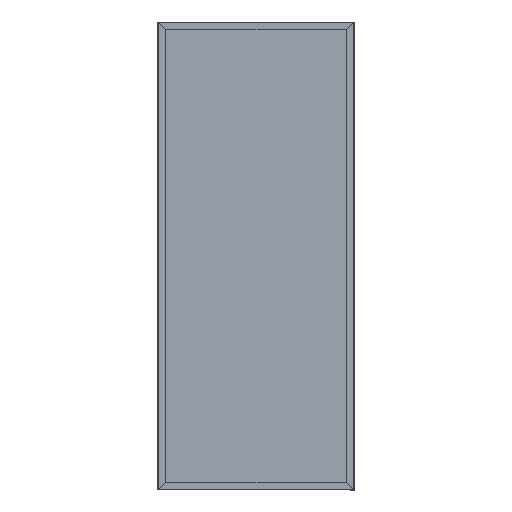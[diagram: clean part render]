
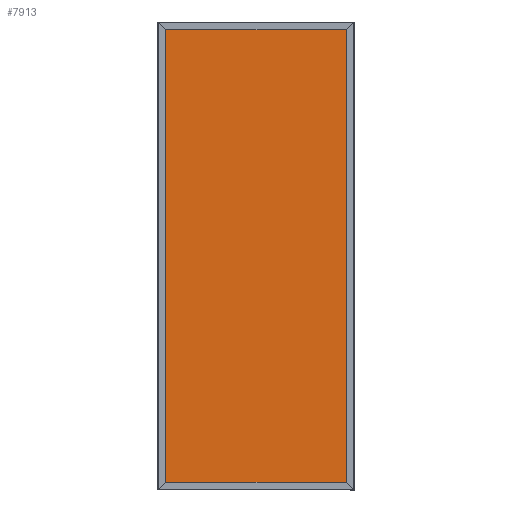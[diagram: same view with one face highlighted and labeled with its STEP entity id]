
A CAD part, top view. The second image highlights one B-rep face of the part: STEP entity #7913.
In plain terms, the highlighted planar face has unit normal (0, 0, 1).
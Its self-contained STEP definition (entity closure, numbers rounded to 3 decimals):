
#494 = EDGE_CURVE ( 'NONE', #20687, #7464, #19026, .T. ) ;
#1671 = DIRECTION ( 'NONE',  ( -1., 0., 0. ) ) ;
#1823 = CARTESIAN_POINT ( 'NONE',  ( 465.07, 0., -13.25 ) ) ;
#3111 = CARTESIAN_POINT ( 'NONE',  ( 465.07, -1162.2, -13.25 ) ) ;
#4229 = CARTESIAN_POINT ( 'NONE',  ( 0., 0., -13.25 ) ) ;
#4364 = DIRECTION ( 'NONE',  ( 0., 1., 0. ) ) ;
#6292 = VECTOR ( 'NONE', #9281, 1000. ) ;
#7331 = LINE ( 'NONE', #15720, #21215 ) ;
#7460 = EDGE_CURVE ( 'NONE', #17281, #10662, #7684, .T. ) ;
#7464 = VERTEX_POINT ( 'NONE', #25021 ) ;
#7684 = LINE ( 'NONE', #23312, #24474 ) ;
#7913 = ADVANCED_FACE ( 'NONE', ( #10485 ), #10757, .F. ) ;
#8093 = ORIENTED_EDGE ( 'NONE', *, *, #494, .T. ) ;
#9070 = EDGE_CURVE ( 'NONE', #7464, #10662, #7331, .T. ) ;
#9240 = ORIENTED_EDGE ( 'NONE', *, *, #9070, .T. ) ;
#9281 = DIRECTION ( 'NONE',  ( -1., 0., 0. ) ) ;
#10485 = FACE_OUTER_BOUND ( 'NONE', #10901, .T. ) ;
#10662 = VERTEX_POINT ( 'NONE', #13618 ) ;
#10757 = PLANE ( 'NONE',  #18531 ) ;
#10901 = EDGE_LOOP ( 'NONE', ( #26305, #22049, #8093, #9240 ) ) ;
#11140 = CARTESIAN_POINT ( 'NONE',  ( 0., -1162.2, -13.25 ) ) ;
#13618 = CARTESIAN_POINT ( 'NONE',  ( -465.07, 1162.2, -13.25 ) ) ;
#13730 = DIRECTION ( 'NONE',  ( -1., 0., 0. ) ) ;
#13838 = EDGE_CURVE ( 'NONE', #20687, #17281, #20103, .T. ) ;
#15720 = CARTESIAN_POINT ( 'NONE',  ( 0., 1162.2, -13.25 ) ) ;
#16375 = DIRECTION ( 'NONE',  ( 0., 1., 0. ) ) ;
#17281 = VERTEX_POINT ( 'NONE', #19819 ) ;
#18531 = AXIS2_PLACEMENT_3D ( 'NONE', #4229, #19450, #1671 ) ;
#19026 = LINE ( 'NONE', #1823, #27702 ) ;
#19450 = DIRECTION ( 'NONE',  ( 0., 0., -1. ) ) ;
#19819 = CARTESIAN_POINT ( 'NONE',  ( -465.07, -1162.2, -13.25 ) ) ;
#20103 = LINE ( 'NONE', #11140, #6292 ) ;
#20687 = VERTEX_POINT ( 'NONE', #3111 ) ;
#21215 = VECTOR ( 'NONE', #13730, 1000. ) ;
#22049 = ORIENTED_EDGE ( 'NONE', *, *, #13838, .F. ) ;
#23312 = CARTESIAN_POINT ( 'NONE',  ( -465.07, 0., -13.25 ) ) ;
#24474 = VECTOR ( 'NONE', #16375, 1000. ) ;
#25021 = CARTESIAN_POINT ( 'NONE',  ( 465.07, 1162.2, -13.25 ) ) ;
#26305 = ORIENTED_EDGE ( 'NONE', *, *, #7460, .F. ) ;
#27702 = VECTOR ( 'NONE', #4364, 1000. ) ;
